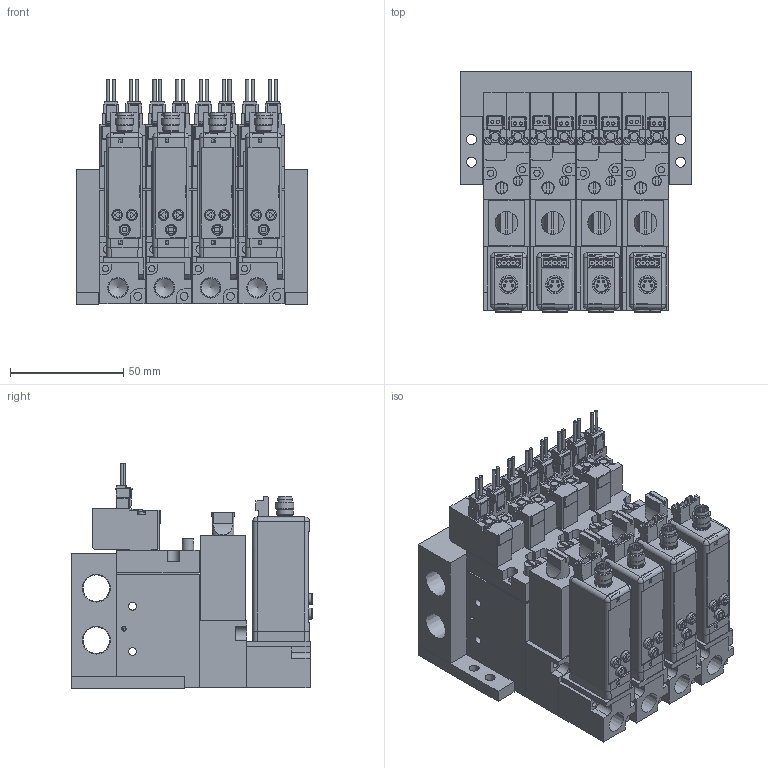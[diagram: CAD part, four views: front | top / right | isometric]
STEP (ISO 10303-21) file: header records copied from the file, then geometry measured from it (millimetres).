
FILE_DESCRIPTION(('STEP AP203'),'1');
FILE_NAME('BMPV32M2N20225AL404.stp','2025-06-16T08:53:44',(' '),(' '),'Spatial InterOp 3D',' ',' ');
FILE_SCHEMA(('CONFIG_CONTROL_DESIGN'));
Length unit declared in the file: millimetre
Products named in the file (52): BMPV32M2N20225AL404; MVS-202; ___-3(Rc); Filter Assy; __; _____; ___ ___; MB BRACKET; MB04; ___; upper plate-A; ______; ____; VACUUM VALVE FUNCTION MPV42-A; UV280-4E
Assembly tree (51 placements, depth 2):
  BMPV32M2N20225AL404
    MVS-202
    ___-3(Rc)
    Filter Assy
    __
    _____
    ___ ___
    MVS-202
    ___-3(Rc)
    Filter Assy
    __
    _____
    ___ ___
    MVS-202
    ___-3(Rc)
    Filter Assy
    __
    _____
    ___ ___
    MB BRACKET
    MB BRACKET
    MB04
    MVS-202
    ___-3(Rc)
    Filter Assy
    __
    _____
    ___ ___
    ___
    upper plate-A
    ______
    ____
    VACUUM VALVE FUNCTION MPV42-A
    ___
    upper plate-A
    ______
    ____
    VACUUM VALVE FUNCTION MPV42-A
    ___
    upper plate-A
    ______
    ____
    VACUUM VALVE FUNCTION MPV42-A
    ___
    upper plate-A
    ______
    ____
    VACUUM VALVE FUNCTION MPV42-A
    UV280-4E
    UV280-4E
    UV280-4E
    UV280-4E
Bounding box: 102.5 x 106.6 x 99.75 mm (x, y, z)
Volume: 526055.4 mm3; surface area: 185362.3 mm2
Topology: 51 solids, 67 shells, 3179 faces, 8148 edges, 5336 vertices
Faces by surface type: plane 2593, cylinder 486, cone 72, sphere 16, torus 12
Full cylindrical faces by diameter (mm): 1 x16, 1.4 x16, 1.5 x4, 1.8 x8, 2 x8, 2.5 x12, 2.8 x16, 3 x16, 3.5 x44, 4 x4, 4.2 x4, 4.5 x20, 4.8 x12, 5 x12, 5.5 x4, 5.8 x8, 6 x4, 6.5 x18, 7 x4, 7.2 x4, 7.9 x4, 8 x8, 8.2 x4, 8.759 x4, 11.776 x2
Entity records: 95958 total; most frequent: CARTESIAN_POINT 16751, ORIENTED_EDGE 15384, DIRECTION 15298, EDGE_CURVE 7692, LINE 6420, VECTOR 6420, VERTEX_POINT 5268, AXIS2_PLACEMENT_3D 4439
